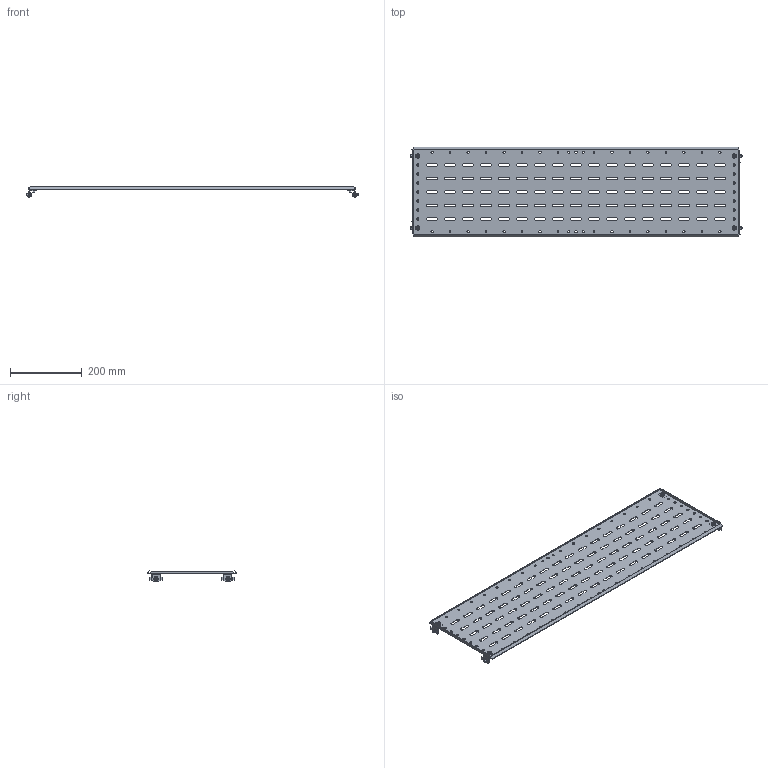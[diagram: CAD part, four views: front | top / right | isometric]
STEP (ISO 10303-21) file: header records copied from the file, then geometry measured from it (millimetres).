
FILE_DESCRIPTION (( 'STEP AP214' ), '1' );
FILE_NAME ('FO-00-SWF-025-100 Ïåðåãîðîäêà ñåêöèîíèðîâàíèÿ çàäíÿÿ 250õ1000 ìì.STEP', '2025-08-12T09:27:53', ( '' ), ( '' ), 'SwSTEP 2.0', 'SolidWorks 2023', '' );
FILE_SCHEMA (( 'AUTOMOTIVE_DESIGN' ));
Length unit declared in the file: millimetre
Products named in the file (1): FO-00-SWF-025-100 Перегородка секционирования задняя 250х1000 мм
Bounding box: 922.4 x 247.66 x 30.52 mm (x, y, z)
Volume: 344778.2 mm3; surface area: 465450.2 mm2
Topology: 1 solids, 5 shells, 937 faces, 2625 edges, 1726 vertices
Faces by surface type: cylinder 535, plane 338, cone 32, torus 32
Entity records: 31148 total; most frequent: DIRECTION 5667, CARTESIAN_POINT 5289, ORIENTED_EDGE 5250, EDGE_CURVE 2625, AXIS2_PLACEMENT_3D 2104, VERTEX_POINT 1726, LINE 1459, VECTOR 1459
